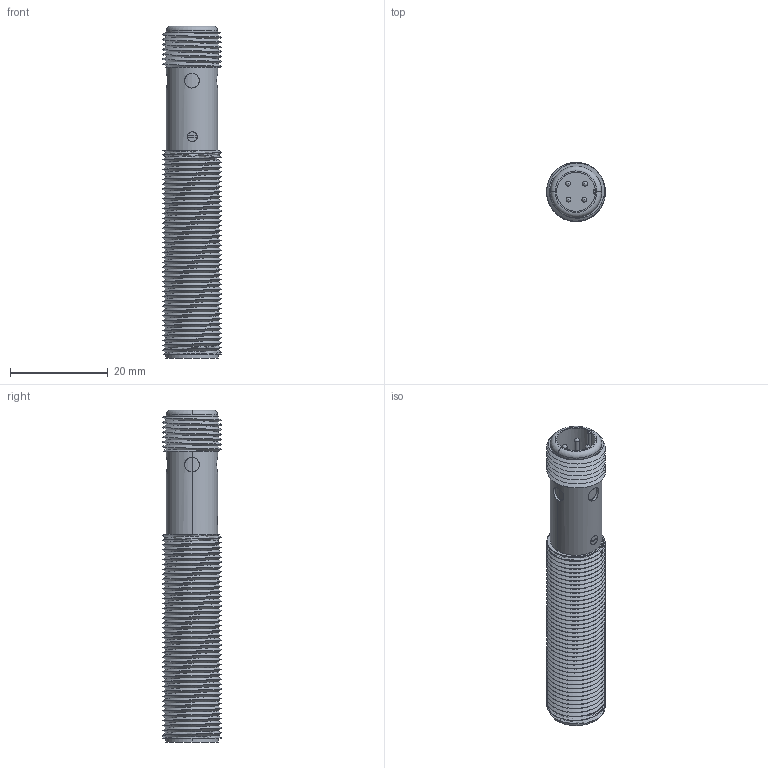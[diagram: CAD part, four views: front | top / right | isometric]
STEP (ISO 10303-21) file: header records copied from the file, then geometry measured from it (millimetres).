
FILE_DESCRIPTION (( 'STEP AP203' ), '1' );
FILE_NAME ('蚾饜极-C1CF-M1203N-OEU4.STEP', '2018-12-12T03:00:00', ( '' ), ( '' ), 'SwSTEP 2.0', 'SolidWorks 2017', '' );
FILE_SCHEMA (( 'CONFIG_CONTROL_DESIGN' ));
Length unit declared in the file: millimetre
Products named in the file (12): 蚾饜极-C1CF-M1203N-OEU4; plogｿﾇ2; 錨璃-諉芛揭蹟恇; 錨璃-M12VR; 脣渀1 - 萵掛 (4); 脣渀1; 零件-标准型埋入管子; Áã¼þ-ledµÆ; 蚾饜极M12-Plug; 脣渀1 - 萵掛; 零件-埋入感应壳; 脣渀1 - 萵掛 (3)
Assembly tree (11 placements, depth 3):
  蚾饜极-C1CF-M1203N-OEU4
    錨璃-諉芛揭蹟恇
    蚾饜极M12-Plug
      plogｿﾇ2
      脣渀1
      脣渀1 - 萵掛
      脣渀1 - 萵掛 (3)
      脣渀1 - 萵掛 (4)
      Áã¼þ-ledµÆ
    零件-标准型埋入管子
    零件-埋入感应壳
    錨璃-M12VR
Bounding box: 12.04 x 12.04 x 68 mm (x, y, z)
Volume: 2680.8 mm3; surface area: 7764 mm2
Topology: 10 solids, 10 shells, 173 faces, 448 edges, 298 vertices
Faces by surface type: cylinder 129, plane 33, bspline 4, sphere 4, torus 3
Entity records: 12947 total; most frequent: CARTESIAN_POINT 7968, ORIENTED_EDGE 872, DIRECTION 697, EDGE_CURVE 436, VERTEX_POINT 290, AXIS2_PLACEMENT_3D 277, EDGE_LOOP 192, ADVANCED_FACE 173
